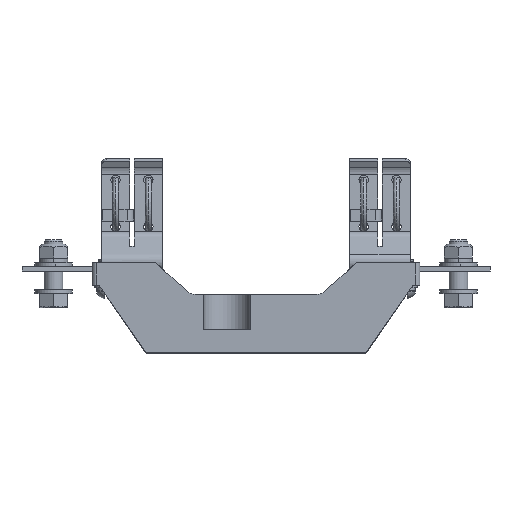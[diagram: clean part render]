
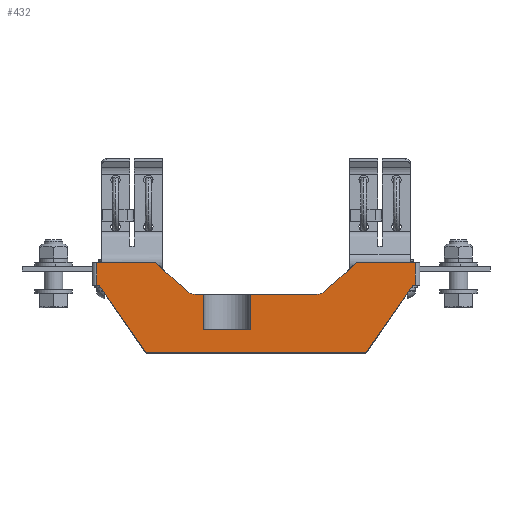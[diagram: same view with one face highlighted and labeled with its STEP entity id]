
A CAD part, top view. The second image highlights one B-rep face of the part: STEP entity #432.
In plain terms, the highlighted planar face has unit normal (0, 0, 1).
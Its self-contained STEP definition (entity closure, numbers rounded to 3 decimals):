
#14 = CARTESIAN_POINT ( 'NONE',  ( -26., 0., 25. ) ) ;
#26 = EDGE_CURVE ( 'NONE', #18846, #4329, #25039, .T. ) ;
#78 = CARTESIAN_POINT ( 'NONE',  ( -67., 4., 25. ) ) ;
#250 = DIRECTION ( 'NONE',  ( 0., -1., 0. ) ) ;
#432 = ADVANCED_FACE ( 'NONE', ( #15530 ), #27234, .F. ) ;
#501 = VECTOR ( 'NONE', #27471, 1000. ) ;
#638 = VERTEX_POINT ( 'NONE', #15407 ) ;
#652 = LINE ( 'NONE', #29721, #13538 ) ;
#1060 = DIRECTION ( 'NONE',  ( 1., 0., 0. ) ) ;
#1308 = EDGE_CURVE ( 'NONE', #5527, #9447, #20825, .T. ) ;
#1582 = VECTOR ( 'NONE', #17517, 1000. ) ;
#1629 = VECTOR ( 'NONE', #1060, 1000. ) ;
#1978 = VECTOR ( 'NONE', #29615, 1000. ) ;
#2259 = CARTESIAN_POINT ( 'NONE',  ( 67., 4., 25. ) ) ;
#2422 = VERTEX_POINT ( 'NONE', #5619 ) ;
#2537 = CARTESIAN_POINT ( 'NONE',  ( -26., 0., 25. ) ) ;
#2666 = DIRECTION ( 'NONE',  ( 0.568, -0.823, 0. ) ) ;
#3111 = VECTOR ( 'NONE', #19234, 1000. ) ;
#3827 = ORIENTED_EDGE ( 'NONE', *, *, #23957, .F. ) ;
#3873 = CARTESIAN_POINT ( 'NONE',  ( 68., 13.5, 25. ) ) ;
#4329 = VERTEX_POINT ( 'NONE', #16506 ) ;
#4623 = ORIENTED_EDGE ( 'NONE', *, *, #1308, .T. ) ;
#5527 = VERTEX_POINT ( 'NONE', #14 ) ;
#5619 = CARTESIAN_POINT ( 'NONE',  ( 42.877, 13.5, 25. ) ) ;
#5639 = ORIENTED_EDGE ( 'NONE', *, *, #19478, .T. ) ;
#5727 = VERTEX_POINT ( 'NONE', #30155 ) ;
#5935 = CARTESIAN_POINT ( 'NONE',  ( -2.5, -15., 25. ) ) ;
#5998 = ORIENTED_EDGE ( 'NONE', *, *, #12085, .T. ) ;
#6089 = EDGE_CURVE ( 'NONE', #13783, #7892, #18987, .T. ) ;
#6255 = CARTESIAN_POINT ( 'NONE',  ( -68., 13.5, 25. ) ) ;
#6349 = VECTOR ( 'NONE', #25640, 1000. ) ;
#7306 = CARTESIAN_POINT ( 'NONE',  ( -70., 13.5, 25. ) ) ;
#7457 = VECTOR ( 'NONE', #27976, 1000. ) ;
#7622 = CARTESIAN_POINT ( 'NONE',  ( -29.351, 1.289, 25. ) ) ;
#7773 = ORIENTED_EDGE ( 'NONE', *, *, #27028, .T. ) ;
#7888 = LINE ( 'NONE', #2537, #30952 ) ;
#7892 = VERTEX_POINT ( 'NONE', #27355 ) ;
#8043 = LINE ( 'NONE', #22587, #1582 ) ;
#8389 = ORIENTED_EDGE ( 'NONE', *, *, #11835, .T. ) ;
#8534 = CARTESIAN_POINT ( 'NONE',  ( 70., 13.5, 25. ) ) ;
#8764 = LINE ( 'NONE', #12240, #15561 ) ;
#8957 = LINE ( 'NONE', #19308, #14630 ) ;
#9447 = VERTEX_POINT ( 'NONE', #7622 ) ;
#9712 = DIRECTION ( 'NONE',  ( -1., 0., 0. ) ) ;
#9976 = EDGE_CURVE ( 'NONE', #12111, #18846, #26926, .T. ) ;
#10209 = VERTEX_POINT ( 'NONE', #16178 ) ;
#10524 = EDGE_CURVE ( 'NONE', #29483, #29127, #23841, .T. ) ;
#11214 = AXIS2_PLACEMENT_3D ( 'NONE', #12557, #12664, #12345 ) ;
#11678 = CARTESIAN_POINT ( 'NONE',  ( -26., 5., 25. ) ) ;
#11829 = DIRECTION ( 'NONE',  ( 0., 1., 0. ) ) ;
#11835 = EDGE_CURVE ( 'NONE', #29127, #12111, #652, .T. ) ;
#12085 = EDGE_CURVE ( 'NONE', #10209, #5527, #26311, .T. ) ;
#12111 = VERTEX_POINT ( 'NONE', #23680 ) ;
#12240 = CARTESIAN_POINT ( 'NONE',  ( -68., 5., 25. ) ) ;
#12345 = DIRECTION ( 'NONE',  ( 0., 1., 0. ) ) ;
#12557 = CARTESIAN_POINT ( 'NONE',  ( 26., 5., 25. ) ) ;
#12664 = DIRECTION ( 'NONE',  ( 0., 0., -1. ) ) ;
#12838 = CARTESIAN_POINT ( 'NONE',  ( 26., 5., 25. ) ) ;
#13349 = CARTESIAN_POINT ( 'NONE',  ( -2.5, 0., 25. ) ) ;
#13397 = EDGE_CURVE ( 'NONE', #9447, #7892, #27273, .T. ) ;
#13538 = VECTOR ( 'NONE', #15264, 1000. ) ;
#13553 = CARTESIAN_POINT ( 'NONE',  ( -2.5, -15., 25. ) ) ;
#13783 = VERTEX_POINT ( 'NONE', #6255 ) ;
#14327 = VERTEX_POINT ( 'NONE', #13349 ) ;
#14348 = CIRCLE ( 'NONE', #26977, 5. ) ;
#14630 = VECTOR ( 'NONE', #21533, 1000. ) ;
#14818 = CARTESIAN_POINT ( 'NONE',  ( 26., 0., 25. ) ) ;
#14947 = ORIENTED_EDGE ( 'NONE', *, *, #23937, .T. ) ;
#15128 = CARTESIAN_POINT ( 'NONE',  ( 70., 4., 25. ) ) ;
#15264 = DIRECTION ( 'NONE',  ( 1., 0., 0. ) ) ;
#15377 = CARTESIAN_POINT ( 'NONE',  ( -68., 4., 25. ) ) ;
#15407 = CARTESIAN_POINT ( 'NONE',  ( 29.351, 1.289, 25. ) ) ;
#15530 = FACE_OUTER_BOUND ( 'NONE', #21084, .T. ) ;
#15545 = EDGE_CURVE ( 'NONE', #13783, #18521, #8764, .T. ) ;
#15561 = VECTOR ( 'NONE', #250, 1000. ) ;
#15668 = EDGE_CURVE ( 'NONE', #5727, #10209, #8043, .T. ) ;
#16056 = DIRECTION ( 'NONE',  ( 1., 0., 0. ) ) ;
#16178 = CARTESIAN_POINT ( 'NONE',  ( -22.5, 0., 25. ) ) ;
#16362 = ORIENTED_EDGE ( 'NONE', *, *, #23529, .T. ) ;
#16506 = CARTESIAN_POINT ( 'NONE',  ( 68., 4., 25. ) ) ;
#16952 = DIRECTION ( 'NONE',  ( 0., -1., 0. ) ) ;
#17451 = ORIENTED_EDGE ( 'NONE', *, *, #15668, .T. ) ;
#17517 = DIRECTION ( 'NONE',  ( 0., 1., 0. ) ) ;
#18521 = VERTEX_POINT ( 'NONE', #15377 ) ;
#18846 = VERTEX_POINT ( 'NONE', #2259 ) ;
#18987 = LINE ( 'NONE', #7306, #3111 ) ;
#19234 = DIRECTION ( 'NONE',  ( 1., 0., 0. ) ) ;
#19308 = CARTESIAN_POINT ( 'NONE',  ( -2.5, -53.284, 25. ) ) ;
#19478 = EDGE_CURVE ( 'NONE', #2422, #638, #30018, .T. ) ;
#19902 = ORIENTED_EDGE ( 'NONE', *, *, #15545, .T. ) ;
#19958 = VECTOR ( 'NONE', #11829, 1000. ) ;
#20252 = DIRECTION ( 'NONE',  ( 0., 1., 0. ) ) ;
#20732 = LINE ( 'NONE', #25661, #19958 ) ;
#20781 = LINE ( 'NONE', #28220, #22289 ) ;
#20825 = CIRCLE ( 'NONE', #26589, 5. ) ;
#21084 = EDGE_LOOP ( 'NONE', ( #24212, #7773, #3827, #5639, #25107, #23405, #21167, #14947, #17451, #5998, #4623, #26278, #26221, #19902, #16362, #30139, #8389, #28976 ) ) ;
#21167 = ORIENTED_EDGE ( 'NONE', *, *, #24274, .F. ) ;
#21290 = DIRECTION ( 'NONE',  ( -1., 0., 0. ) ) ;
#21380 = VERTEX_POINT ( 'NONE', #3873 ) ;
#21533 = DIRECTION ( 'NONE',  ( 0., 1., 0. ) ) ;
#21834 = LINE ( 'NONE', #8534, #6349 ) ;
#22289 = VECTOR ( 'NONE', #16056, 1000. ) ;
#22587 = CARTESIAN_POINT ( 'NONE',  ( -22.5, -53.284, 25. ) ) ;
#23069 = CARTESIAN_POINT ( 'NONE',  ( -29.351, 1.289, 25. ) ) ;
#23405 = ORIENTED_EDGE ( 'NONE', *, *, #23758, .T. ) ;
#23522 = VERTEX_POINT ( 'NONE', #13553 ) ;
#23529 = EDGE_CURVE ( 'NONE', #18521, #29483, #20781, .T. ) ;
#23680 = CARTESIAN_POINT ( 'NONE',  ( 47., -25., 25. ) ) ;
#23758 = EDGE_CURVE ( 'NONE', #28298, #14327, #7888, .T. ) ;
#23841 = LINE ( 'NONE', #78, #29116 ) ;
#23937 = EDGE_CURVE ( 'NONE', #23522, #5727, #27099, .T. ) ;
#23957 = EDGE_CURVE ( 'NONE', #2422, #21380, #21834, .T. ) ;
#24212 = ORIENTED_EDGE ( 'NONE', *, *, #26, .T. ) ;
#24274 = EDGE_CURVE ( 'NONE', #23522, #14327, #8957, .T. ) ;
#24532 = CARTESIAN_POINT ( 'NONE',  ( 67., 4., 25. ) ) ;
#25039 = LINE ( 'NONE', #15128, #1629 ) ;
#25107 = ORIENTED_EDGE ( 'NONE', *, *, #27947, .T. ) ;
#25640 = DIRECTION ( 'NONE',  ( 1., 0., 0. ) ) ;
#25661 = CARTESIAN_POINT ( 'NONE',  ( 68., 5., 25. ) ) ;
#25698 = CARTESIAN_POINT ( 'NONE',  ( -47., -25., 25. ) ) ;
#25811 = CARTESIAN_POINT ( 'NONE',  ( -26., 0., 25. ) ) ;
#26221 = ORIENTED_EDGE ( 'NONE', *, *, #6089, .F. ) ;
#26278 = ORIENTED_EDGE ( 'NONE', *, *, #13397, .T. ) ;
#26311 = LINE ( 'NONE', #25811, #27075 ) ;
#26589 = AXIS2_PLACEMENT_3D ( 'NONE', #11678, #28563, #16952 ) ;
#26926 = LINE ( 'NONE', #24532, #1978 ) ;
#26977 = AXIS2_PLACEMENT_3D ( 'NONE', #12838, #29710, #20252 ) ;
#27028 = EDGE_CURVE ( 'NONE', #4329, #21380, #20732, .T. ) ;
#27075 = VECTOR ( 'NONE', #21290, 1000. ) ;
#27099 = LINE ( 'NONE', #5935, #7457 ) ;
#27145 = CARTESIAN_POINT ( 'NONE',  ( -67., 4., 25. ) ) ;
#27234 = PLANE ( 'NONE',  #11214 ) ;
#27273 = LINE ( 'NONE', #23069, #29534 ) ;
#27355 = CARTESIAN_POINT ( 'NONE',  ( -42.877, 13.5, 25. ) ) ;
#27471 = DIRECTION ( 'NONE',  ( -0.742, -0.67, 0. ) ) ;
#27938 = DIRECTION ( 'NONE',  ( -0.742, 0.67, 0. ) ) ;
#27947 = EDGE_CURVE ( 'NONE', #638, #28298, #14348, .T. ) ;
#27976 = DIRECTION ( 'NONE',  ( -1., 0., 0. ) ) ;
#28220 = CARTESIAN_POINT ( 'NONE',  ( -70., 4., 25. ) ) ;
#28298 = VERTEX_POINT ( 'NONE', #14818 ) ;
#28563 = DIRECTION ( 'NONE',  ( 0., 0., -1. ) ) ;
#28976 = ORIENTED_EDGE ( 'NONE', *, *, #9976, .T. ) ;
#29116 = VECTOR ( 'NONE', #2666, 1000. ) ;
#29127 = VERTEX_POINT ( 'NONE', #25698 ) ;
#29483 = VERTEX_POINT ( 'NONE', #27145 ) ;
#29534 = VECTOR ( 'NONE', #27938, 1000. ) ;
#29615 = DIRECTION ( 'NONE',  ( 0.568, 0.823, 0. ) ) ;
#29710 = DIRECTION ( 'NONE',  ( 0., 0., -1. ) ) ;
#29721 = CARTESIAN_POINT ( 'NONE',  ( 47., -25., 25. ) ) ;
#30018 = LINE ( 'NONE', #30097, #501 ) ;
#30097 = CARTESIAN_POINT ( 'NONE',  ( 29.351, 1.289, 25. ) ) ;
#30139 = ORIENTED_EDGE ( 'NONE', *, *, #10524, .T. ) ;
#30155 = CARTESIAN_POINT ( 'NONE',  ( -22.5, -15., 25. ) ) ;
#30952 = VECTOR ( 'NONE', #9712, 1000. ) ;
